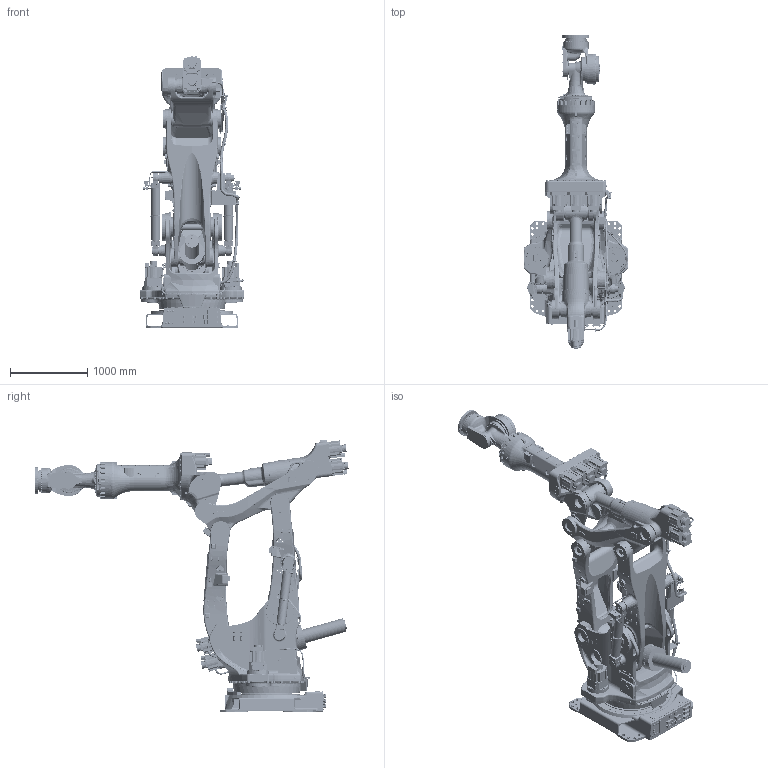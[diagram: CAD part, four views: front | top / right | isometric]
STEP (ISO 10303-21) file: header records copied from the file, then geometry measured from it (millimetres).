
FILE_DESCRIPTION(('CATIA V5 STEP Exchange','CAx-IF Rec.Pracs.--- Composite Materials ---3.4---2017-06-13'),'2;1');
FILE_NAME('D:\モデリング\☆☆☆STEP\MG\MG10HL-B001_RARAS_220224\軽量化\MG10HL-B001.stp','2022-02-25T03:38:46+00:00',('none'),('none'),'CATIA Version 5-6 Release 2020 SP4 HF11','CATIA V5 STEP AP203 v2','none');
FILE_SCHEMA(('CONFIG_CONTROL_DESIGN'));
Length unit declared in the file: millimetre
Products named in the file (1): MG10HL-B001
Assembly tree (15 placements, depth 2):
  MG10HL-B001
    #57
    #82194
    #185600
    #226018
    #307472
    #329860
    #357986
    #364918
    #443838
    #504283
    #530974
    #551683
    #573574
    #597451
    #613424
Bounding box: 1348.82 x 4052.57 x 3529.58 mm (x, y, z)
Volume: 1475130019.4 mm3; surface area: 46767820.1 mm2
Topology: 72 solids, 76 shells, 16939 faces, 43054 edges, 27672 vertices
Faces by surface type: plane 6804, cylinder 6633, bspline 1284, cone 951, extrusion 539, torus 520, revolution 154, sphere 54
Entity records: 646674 total; most frequent: CARTESIAN_POINT 285005, ORIENTED_EDGE 85084, DIRECTION 52608, EDGE_CURVE 42542, VERTEX_POINT 27672, AXIS2_PLACEMENT_3D 22614, VECTOR 20538, LINE 19999
